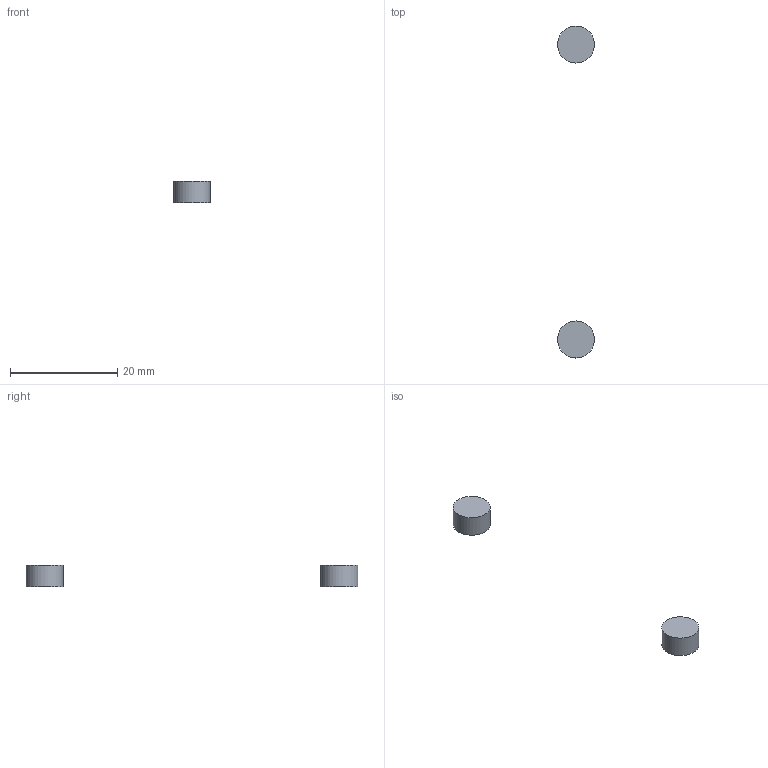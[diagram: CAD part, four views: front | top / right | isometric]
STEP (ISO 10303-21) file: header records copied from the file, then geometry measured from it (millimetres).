
FILE_DESCRIPTION(('Open CASCADE Model'),'2;1');
FILE_NAME('Open CASCADE Shape Model','2026-10-16T05:11:25',('Author'),( 'Open CASCADE'),'Open CASCADE STEP processor 7.9','Open CASCADE 7.9' ,'Unknown');
FILE_SCHEMA(('AUTOMOTIVE_DESIGN { 1 0 10303 214 1 1 1 1 }'));
Length unit declared in the file: millimetre
Products named in the file (3): Open CASCADE STEP translator 7.9 10; Open CASCADE STEP translator 7.9 10.1; Open CASCADE STEP translator 7.9 10.2
Assembly tree (2 placements, depth 2):
  Open CASCADE STEP translator 7.9 10
    Open CASCADE STEP translator 7.9 10.1
    Open CASCADE STEP translator 7.9 10.2
Bounding box: 6.9 x 61.9 x 4 mm (x, y, z)
Volume: 299.1 mm3; surface area: 323 mm2
Topology: 2 solids, 2 shells, 6 faces, 6 edges, 4 vertices
Faces by surface type: plane 4, cylinder 2
Full cylindrical faces by diameter (mm): 6.9 x2
Entity records: 236 total; most frequent: DIRECTION 40, CARTESIAN_POINT 31, AXIS2_PLACEMENT_3D 13, ORIENTED_EDGE 12, PCURVE 12, DEFINITIONAL_REPRESENTATION 12, LINE 10, VECTOR 10
